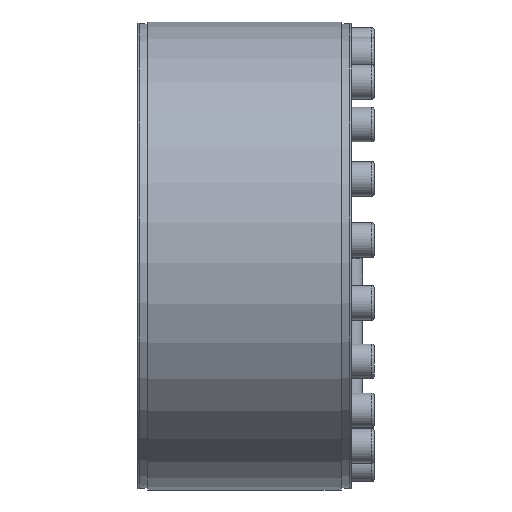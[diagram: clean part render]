
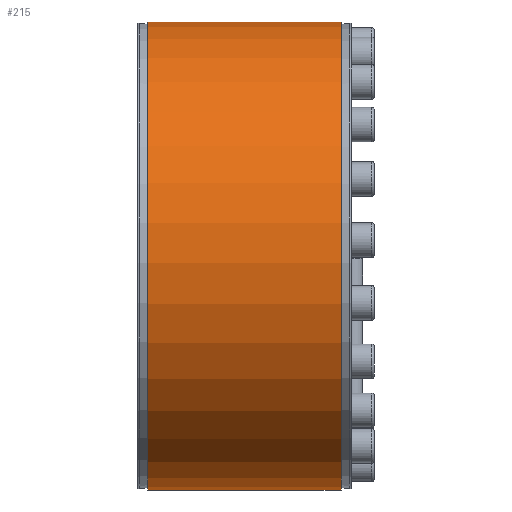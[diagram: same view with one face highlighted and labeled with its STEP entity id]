
A CAD part, left-side view. The second image highlights one B-rep face of the part: STEP entity #215.
In plain terms, the highlighted cylindrical face has radius 162.5 mm (diameter 325 mm), a partial arc.
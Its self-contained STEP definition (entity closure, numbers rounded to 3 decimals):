
#215 = ADVANCED_FACE( '', ( #586 ), #587, .T. );
#586 = FACE_OUTER_BOUND( '', #1080, .T. );
#587 = CYLINDRICAL_SURFACE( '', #1081, 162.5 );
#1080 = EDGE_LOOP( '', ( #1753, #1754, #1755, #1756 ) );
#1081 = AXIS2_PLACEMENT_3D( '', #1757, #1758, #1759 );
#1753 = ORIENTED_EDGE( '', *, *, #2235, .F. );
#1754 = ORIENTED_EDGE( '', *, *, #2312, .T. );
#1755 = ORIENTED_EDGE( '', *, *, #2313, .F. );
#1756 = ORIENTED_EDGE( '', *, *, #2279, .F. );
#1757 = CARTESIAN_POINT( '', ( 0., -60., 0. ) );
#1758 = DIRECTION( '', ( 0., 1., 0. ) );
#1759 = DIRECTION( '', ( 0., 0., -1. ) );
#2235 = EDGE_CURVE( '', #2652, #2654, #2655, .T. );
#2279 = EDGE_CURVE( '', #2654, #2727, #2728, .T. );
#2312 = EDGE_CURVE( '', #2652, #2779, #2780, .T. );
#2313 = EDGE_CURVE( '', #2727, #2779, #2781, .F. );
#2652 = VERTEX_POINT( '', #3250 );
#2654 = VERTEX_POINT( '', #3253 );
#2655 = LINE( '', #3254, #3255 );
#2727 = VERTEX_POINT( '', #3335 );
#2728 = CIRCLE( '', #3336, 162.5 );
#2779 = VERTEX_POINT( '', #3391 );
#2780 = CIRCLE( '', #3392, 162.5 );
#2781 = LINE( '', #3393, #3394 );
#3250 = CARTESIAN_POINT( '', ( 21.744, 141., 161.039 ) );
#3253 = CARTESIAN_POINT( '', ( 21.744, 7., 161.039 ) );
#3254 = CARTESIAN_POINT( '', ( 21.744, -60., 161.039 ) );
#3255 = VECTOR( '', #3771, 1000. );
#3335 = CARTESIAN_POINT( '', ( 26.689, 7., 160.293 ) );
#3336 = AXIS2_PLACEMENT_3D( '', #3855, #3856, #3857 );
#3391 = CARTESIAN_POINT( '', ( 26.689, 141., 160.293 ) );
#3392 = AXIS2_PLACEMENT_3D( '', #3916, #3917, #3918 );
#3393 = CARTESIAN_POINT( '', ( 26.689, -60., 160.293 ) );
#3394 = VECTOR( '', #3919, 1000. );
#3771 = DIRECTION( '', ( 0., -1., 0. ) );
#3855 = CARTESIAN_POINT( '', ( 0., 7., 0. ) );
#3856 = DIRECTION( '', ( 0., -1., 0. ) );
#3857 = DIRECTION( '', ( 0., 0., -1. ) );
#3916 = CARTESIAN_POINT( '', ( 0., 141., 0. ) );
#3917 = DIRECTION( '', ( 0., -1., 0. ) );
#3918 = DIRECTION( '', ( 0., 0., -1. ) );
#3919 = DIRECTION( '', ( 0., -1., 0. ) );
